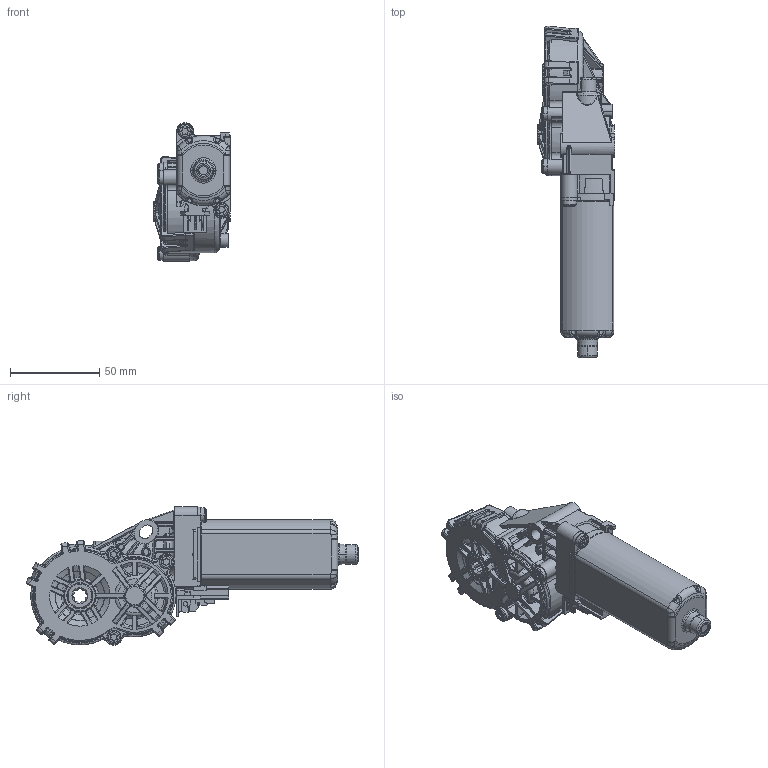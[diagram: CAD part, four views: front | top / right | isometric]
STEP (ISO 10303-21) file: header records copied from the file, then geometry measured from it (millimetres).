
FILE_DESCRIPTION((''),'2;1');
FILE_NAME('PRT0001','2014-08-13T',('neh1cob'),(''),'PRO/ENGINEER BY PARAMETRIC TECHNOLOGY CORPORATION, 2011490','PRO/ENGINEER BY PARAMETRIC TECHNOLOGY CORPORATION, 2011490','');
FILE_SCHEMA(('AUTOMOTIVE_DESIGN_CC2 { 1 2 10303 214 -1 1 5 2 }'));
Products named in the file (1): PRT0001
Bounding box: 43.25 x 185.84 x 77.54 mm (x, y, z)
Volume: 214017.7 mm3; surface area: 44067.3 mm2
Topology: 1 solids, 16 shells, 2672 faces, 7287 edges, 4502 vertices
Faces by surface type: cylinder 972, plane 631, bspline 453, torus 353, sphere 145, cone 111, revolution 7
Entity records: 136265 total; most frequent: CARTESIAN_POINT 53902, ORIENTED_EDGE 14294, DIRECTION 12514, EDGE_CURVE 7147, AXIS2_PLACEMENT_3D 5122, VERTEX_POINT 4502, CIRCLE 2910, EDGE_LOOP 2717
